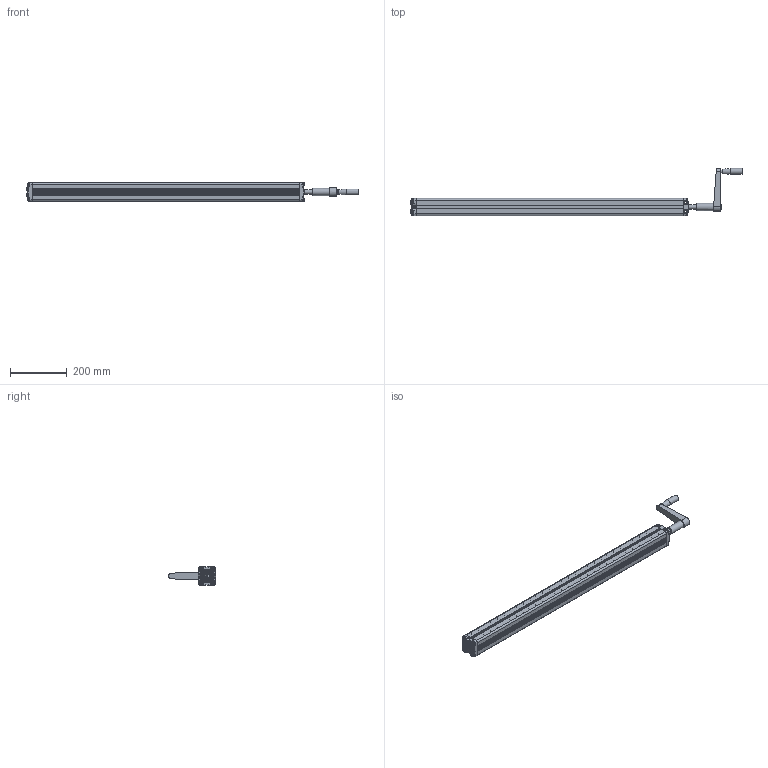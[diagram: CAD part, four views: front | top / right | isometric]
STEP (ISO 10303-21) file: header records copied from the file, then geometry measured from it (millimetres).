
FILE_DESCRIPTION(/* description */ ('Unknown'),/* implementation_level */ '2;1');
FILE_NAME(/* name */ '313.20037 Pumpe PF 4870 W mit Handkurbel',/* time_stamp */ '2018-01-19T16:43:31+01:00',/* author */ ('Unknown'),/* organization */ ('Unknown'),/* preprocessor_version */ 'ST-DEVELOPER v16.7',/* originating_system */ 'DEX',/* authorisation */ $);
FILE_SCHEMA (('AUTOMOTIVE_DESIGN {1 0 10303 214 3 1 1}'));
Products named in the file (29): 103.20037; 115.10057_oa_0; 125.00126; 115.00008_oa_1; 142.00021; 125.00021; 113.00005; 128.00001; 125.00052; 126.00013; 125.00053; 142.00077; 127.00014; 142.00244; Handgriff; 115.10057_oa_2; 115.00008_oa_3; 142.00013; 115.10057_oa_4; 115.00008_oa_5; 115.10057_oa_6; 115.00008_oa_7; 142.00057; 125.00149; 115.00141; 126.00076; 122.00040; 119.00357; 126.00075
Assembly tree (44 placements, depth 3):
  103.20037
    115.10057_oa_0
      125.00126
      115.00008_oa_1
      142.00021
      125.00021
    113.00005
      128.00001
      125.00052
      126.00013
      125.00053
      142.00077
      127.00014
      142.00244
      Handgriff
    115.10057_oa_2
      125.00126
      115.00008_oa_3
      142.00021
      125.00021
    142.00013  x8
    115.10057_oa_4
      125.00126
      115.00008_oa_5
      142.00021
      125.00021
    115.10057_oa_6
      125.00126
      115.00008_oa_7
      142.00021
      125.00021
    142.00057
    125.00149
    115.00141
      126.00076
      122.00040
    119.00357
    126.00075
Bounding box: 1166.72 x 165.5 x 65 mm (x, y, z)
Volume: 1259241.9 mm3; surface area: 738576.4 mm2
Topology: 34 solids, 34 shells, 2446 faces, 5968 edges, 3580 vertices
Faces by surface type: plane 977, cylinder 561, bspline 455, cone 334, torus 107, sphere 12
Full cylindrical faces by diameter (mm): 3.5 x4, 4 x2, 4.1 x4, 4.2 x5, 4.917 x2, 5 x8, 6 x1, 6.917 x8, 8 x10, 9.8 x8, 10 x4, 10.4 x1, 12.8 x1, 13 x5, 14 x2, 14.4 x4, 16 x2, 17 x1, 17.9 x8, 18 x1, 19 x1, 20.6 x1, 21 x1, 22 x1, 25.5 x1
Entity records: 79143 total; most frequent: CARTESIAN_POINT 39240, ORIENTED_EDGE 8370, DIRECTION 6895, EDGE_CURVE 4185, VERTEX_POINT 2687, AXIS2_PLACEMENT_3D 2430, LINE 2035, VECTOR 2035
